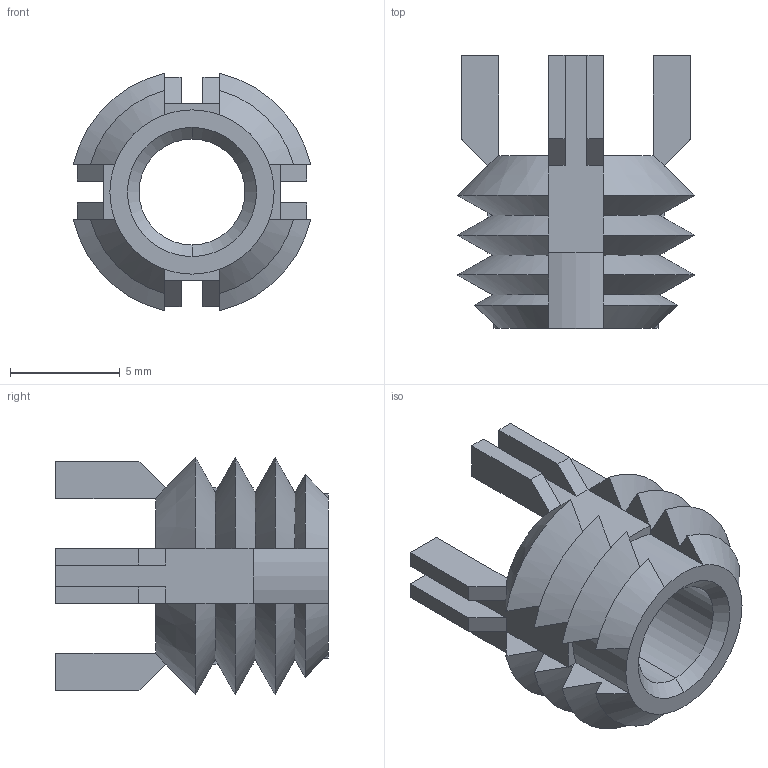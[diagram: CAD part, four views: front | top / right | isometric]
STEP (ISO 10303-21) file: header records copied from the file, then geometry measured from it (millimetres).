
FILE_DESCRIPTION (( 'STEP AP203' ), '1' );
FILE_NAME ('22034.W0330.step', '2023-04-20T09:55:14', ( '' ), ( '' ), 'SwSTEP 2.0', 'SolidWorks 2019', '' );
FILE_SCHEMA (( 'CONFIG_CONTROL_DESIGN' ));
Length unit declared in the file: millimetre
Products named in the file (1): 22034.W0330
Bounding box: 10.83 x 12.43 x 10.83 mm (x, y, z)
Volume: 390.1 mm3; surface area: 767.7 mm2
Topology: 1 solids, 1 shells, 132 faces, 330 edges, 200 vertices
Faces by surface type: plane 90, cone 36, cylinder 6
Entity records: 4011 total; most frequent: CARTESIAN_POINT 975, ORIENTED_EDGE 660, DIRECTION 544, EDGE_CURVE 330, VERTEX_POINT 200, AXIS2_PLACEMENT_3D 185, LINE 174, VECTOR 174
